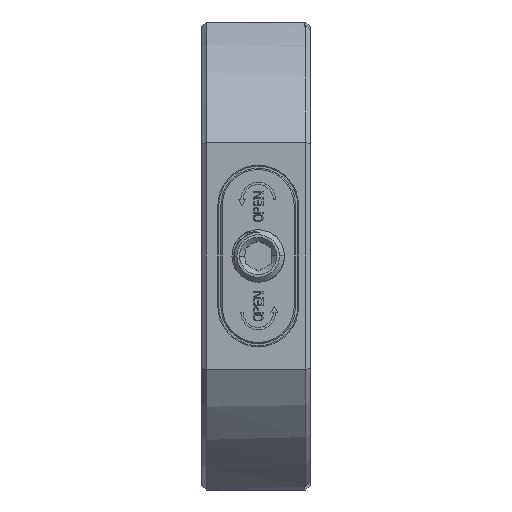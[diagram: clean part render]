
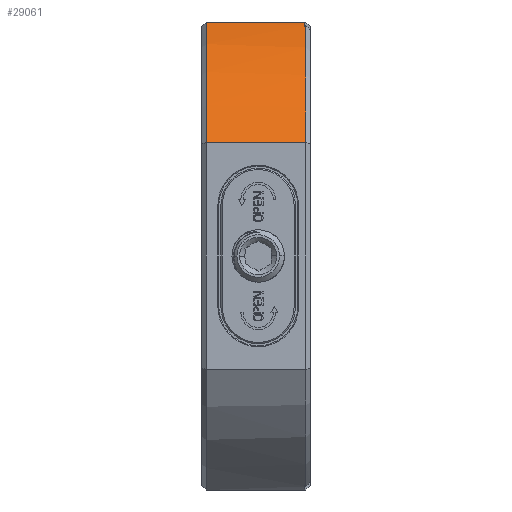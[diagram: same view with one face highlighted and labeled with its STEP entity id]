
A CAD part, left-side view. The second image highlights one B-rep face of the part: STEP entity #29061.
In plain terms, the highlighted cylindrical face has radius 60 mm (diameter 120 mm), a partial arc.
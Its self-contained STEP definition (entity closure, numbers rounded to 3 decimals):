
#1791=CARTESIAN_POINT('',(0.,1.2,0.));
#1792=DIRECTION('',(0.,1.,0.));
#1793=DIRECTION('',(-0.463,0.,0.887));
#1794=AXIS2_PLACEMENT_3D('',#1791,#1792,#1793);
#1853=CARTESIAN_POINT('',(0.,24.,0.));
#1854=DIRECTION('',(0.,1.,0.));
#1855=DIRECTION('',(-0.9,0.,0.436));
#1856=AXIS2_PLACEMENT_3D('',#1853,#1854,#1855);
#1858=CARTESIAN_POINT('',(0.,1.,0.));
#1859=DIRECTION('',(0.,-1.,0.));
#1860=DIRECTION('',(-0.463,0.,0.887));
#1861=AXIS2_PLACEMENT_3D('',#1858,#1859,#1860);
#1909=CARTESIAN_POINT('',(-26.153,24.,54.));
#1911=DIRECTION('',(0.,1.,0.));
#1912=VECTOR('',#1911,22.8);
#1913=CARTESIAN_POINT('',(-26.153,1.2,54.));
#1914=LINE('',#1913,#1912);
#3125=DIRECTION('',(0.,1.,0.));
#3126=VECTOR('',#3125,0.2);
#3127=CARTESIAN_POINT('',(-27.75,1.,53.197));
#3128=LINE('',#3127,#3126);
#3139=CARTESIAN_POINT('',(-54.,1.,26.153));
#4427=DIRECTION('',(0.,1.,0.));
#4428=VECTOR('',#4427,23.);
#4429=CARTESIAN_POINT('',(-54.,1.,26.153));
#4430=LINE('',#4429,#4428);
#22123=CARTESIAN_POINT('',(-27.75,1.2,53.197));
#22124=CARTESIAN_POINT('',(-26.153,1.2,54.));
#22125=VERTEX_POINT('',#22123);
#22126=VERTEX_POINT('',#22124);
#22150=VERTEX_POINT('',#1909);
#22151=CARTESIAN_POINT('',(-54.,24.,26.153));
#22152=VERTEX_POINT('',#22151);
#22155=VERTEX_POINT('',#3139);
#22156=CARTESIAN_POINT('',(-27.75,1.,53.197));
#22157=VERTEX_POINT('',#22156);
#29043=CARTESIAN_POINT('',(0.,25.,0.));
#29044=DIRECTION('',(0.,1.,0.));
#29045=DIRECTION('',(1.,0.,0.));
#29046=AXIS2_PLACEMENT_3D('',#29043,#29044,#29045);
#29047=CYLINDRICAL_SURFACE('',#29046,60.);
#29049=ORIENTED_EDGE('',*,*,#29048,.T.);
#29051=ORIENTED_EDGE('',*,*,#29050,.F.);
#29052=ORIENTED_EDGE('',*,*,#28951,.F.);
#29054=ORIENTED_EDGE('',*,*,#29053,.F.);
#29056=ORIENTED_EDGE('',*,*,#29055,.T.);
#29058=ORIENTED_EDGE('',*,*,#29057,.T.);
#29059=EDGE_LOOP('',(#29049,#29051,#29052,#29054,#29056,#29058));
#29060=FACE_OUTER_BOUND('',#29059,.F.);
#29061=ADVANCED_FACE('',(#29060),#29047,.T.);
#1795=CIRCLE('',#1794,60.);
#1857=CIRCLE('',#1856,60.);
#1862=CIRCLE('',#1861,60.);
#28951=EDGE_CURVE('',#22125,#22126,#1795,.T.);
#29048=EDGE_CURVE('',#22152,#22150,#1857,.T.);
#29050=EDGE_CURVE('',#22126,#22150,#1914,.T.);
#29053=EDGE_CURVE('',#22157,#22125,#3128,.T.);
#29055=EDGE_CURVE('',#22157,#22155,#1862,.T.);
#29057=EDGE_CURVE('',#22155,#22152,#4430,.T.);
